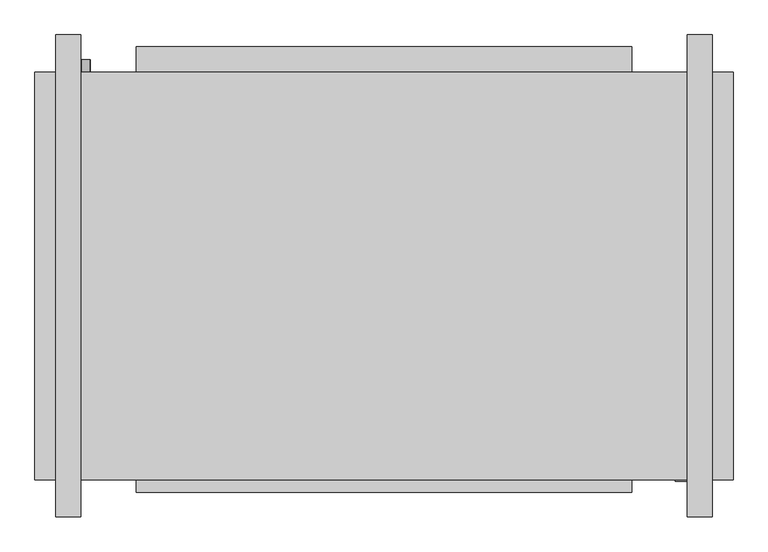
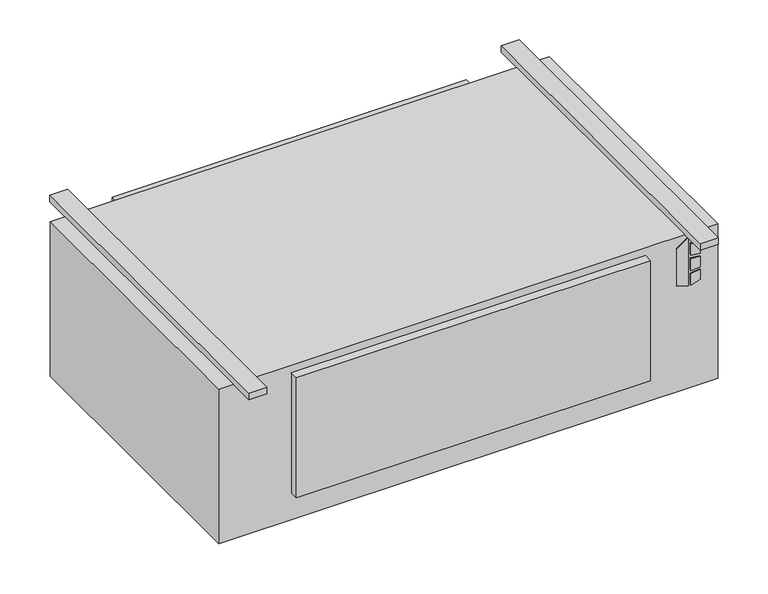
"""IFC4 building model written with IfcOpenShell, lengths in millimetres: proxy geometry, Concealed_High_Capacity_Horizontal_Cabinet_Fan_Coil_Unit_-_HXY_-_IEC_-_4-Pipe_LH_2022 : Size 16 - 277v/60Hz/1Ph - 6/2 Coil."""

from ifc_helpers import new_model, si_unit, point, frame, frame_2d, origin, origin_with_axes, place, context, project, spatial, polyline, circle_curve, trimmed, segment, composite_curve, outline, extrude, source, transform, mapped, element, save


def mechanical_equipment_70990f69(model_context):
    return source(origin(), model_context, "Body", "SweptSolid", [
        extrude(outline(polyline([(-142.4519297, 735.0868862), (-152.4, 767.2602728), (-10.2290756, 767.2602728), (-33.2510817, 735.0868862), (-142.4519297, 735.0868862)])), frame((0.0, -649.2875, 0.0), z_axis=(0.0, 1.0, 0.0), x_axis=(0.0, 0.0, 1.0)), (0.0, 0.0, 1.0), 3.175),
        extrude(outline(polyline([(-63.4526443, 774.0186058), (-66.6550368, 800.1), (-37.4261958, 800.1), (-29.3617807, 774.0186058), (-63.4526443, 774.0186058)])), frame((0.0, -649.2875, 0.0), z_axis=(0.0, 1.0, 0.0), x_axis=(0.0, 0.0, 1.0)), (0.0, 0.0, 1.0), 3.175),
        extrude(outline(polyline([(-115.3161712, 800.1), (-118.9816721, 774.0186058), (-152.4, 774.0186058), (-143.7657628, 800.1), (-115.3161712, 800.1)])), frame((0.0, -649.2875, 0.0), z_axis=(0.0, 1.0, 0.0), x_axis=(0.0, 0.0, 1.0)), (0.0, 0.0, 1.0), 3.175),
        extrude(outline(polyline([(-76.0010097, 800.1), (-73.7191834, 774.0186058), (-109.6567319, 774.0186058), (-106.9154669, 800.1), (-76.0010097, 800.1)])), frame((0.0, -649.2875, 0.0), z_axis=(0.0, 1.0, 0.0), x_axis=(0.0, 0.0, 1.0)), (0.0, 0.0, 1.0), 3.175),
        extrude(outline(composite_curve([segment(trimmed(circle_curve(frame_2d((-406.4, -444.5)), 9.525), [point((-406.4, -454.025))], [point((-406.4, -434.975))], False, "CARTESIAN"), True, "CONTINUOUS"), segment(trimmed(circle_curve(frame_2d((-406.4, -444.5)), 9.525), [point((-406.4, -434.975))], [point((-406.4, -454.025))], False, "CARTESIAN"), True, "CONTINUOUS")], self_intersect=False)), frame((0.0, 169.8625, 0.0), z_axis=(0.0, 1.0, 0.0), x_axis=(0.0, 0.0, 1.0)), (0.0, 0.0, 1.0), 25.4),
        extrude(outline(composite_curve([segment(trimmed(circle_curve(frame_2d((-330.2, -444.5)), 7.9375), [point((-330.2, -452.4375))], [point((-330.2, -436.5625))], False, "CARTESIAN"), True, "CONTINUOUS"), segment(trimmed(circle_curve(frame_2d((-330.2, -444.5)), 7.9375), [point((-330.2, -436.5625))], [point((-330.2, -452.4375))], False, "CARTESIAN"), True, "CONTINUOUS")], self_intersect=False)), frame((0.0, 169.8625, 0.0), z_axis=(0.0, 1.0, 0.0), x_axis=(0.0, 0.0, 1.0)), (0.0, 0.0, 1.0), 25.4),
        extrude(outline(composite_curve([segment(trimmed(circle_curve(frame_2d((-254.0, -444.5)), 7.9375), [point((-254.0, -452.4375))], [point((-254.0, -436.5625))], False, "CARTESIAN"), True, "CONTINUOUS"), segment(trimmed(circle_curve(frame_2d((-254.0, -444.5)), 7.9375), [point((-254.0, -436.5625))], [point((-254.0, -452.4375))], False, "CARTESIAN"), True, "CONTINUOUS")], self_intersect=False)), frame((0.0, 169.8625, 0.0), z_axis=(0.0, 1.0, 0.0), x_axis=(0.0, 0.0, 1.0)), (0.0, 0.0, 1.0), 25.4),
        extrude(outline(composite_curve([segment(trimmed(circle_curve(frame_2d((-177.8, -444.5)), 7.9375), [point((-177.8, -452.4375))], [point((-177.8, -436.5625))], False, "CARTESIAN"), True, "CONTINUOUS"), segment(trimmed(circle_curve(frame_2d((-177.8, -444.5)), 7.9375), [point((-177.8, -436.5625))], [point((-177.8, -452.4375))], False, "CARTESIAN"), True, "CONTINUOUS")], self_intersect=False)), frame((0.0, 169.8625, 0.0), z_axis=(0.0, 1.0, 0.0), x_axis=(0.0, 0.0, 1.0)), (0.0, 0.0, 1.0), 25.4),
        extrude(outline(composite_curve([segment(trimmed(circle_curve(frame_2d((-101.6, -444.5)), 7.9375), [point((-101.6, -452.4375))], [point((-101.6, -436.5625))], False, "CARTESIAN"), True, "CONTINUOUS"), segment(trimmed(circle_curve(frame_2d((-101.6, -444.5)), 7.9375), [point((-101.6, -436.5625))], [point((-101.6, -452.4375))], False, "CARTESIAN"), True, "CONTINUOUS")], self_intersect=False)), frame((0.0, 169.8625, 0.0), z_axis=(0.0, 1.0, 0.0), x_axis=(0.0, 0.0, 1.0)), (0.0, 0.0, 1.0), 25.4),
        extrude(outline(polyline([(850.9, 169.8625), (850.9, -646.1125), (-546.1, -646.1125), (-546.1, 169.8625), (850.9, 169.8625)])), frame((0.0, 0.0, -457.2), z_axis=(0.0, 0.0, 1.0), x_axis=(1.0, 0.0, 0.0)), (0.0, 0.0, 1.0), 457.2),
        extrude(outline(polyline([(-342.9, 220.6625), (647.7, 220.6625), (647.7, 169.8625), (-342.9, 169.8625), (-342.9, 220.6625)])), frame((0.0, 0.0, -377.825), z_axis=(0.0, 0.0, 1.0), x_axis=(1.0, 0.0, 0.0)), (0.0, 0.0, 1.0), 349.25),
        extrude(outline(polyline([(-454.025, 244.475), (-454.025, -720.725), (-504.825, -720.725), (-504.825, 244.475), (-454.025, 244.475)])), origin_with_axes(), (0.0, 0.0, 1.0), 19.05),
        extrude(outline(polyline([(809.625, 244.475), (809.625, -720.725), (758.825, -720.725), (758.825, 244.475), (809.625, 244.475)])), origin_with_axes(), (0.0, 0.0, 1.0), 19.05),
        extrude(outline(polyline([(647.7, -671.5125), (-342.9, -671.5125), (-342.9, -646.1125), (647.7, -646.1125), (647.7, -671.5125)])), frame((0.0, 0.0, -377.825), z_axis=(0.0, 0.0, 1.0), x_axis=(1.0, 0.0, 0.0)), (0.0, 0.0, 1.0), 355.6),
    ])


if __name__ == "__main__":
    model = new_model("IFC4")
    model_context = context("Model", 3, world=origin())
    ifc_project = project(units=[si_unit("LENGTHUNIT", "METRE", prefix="MILLI")], contexts=[model_context])
    site = spatial("IfcSite", under=ifc_project)
    building = spatial("IfcBuilding", under=site)
    placement = place(None, origin())
    mechanical_equipment_shape = mechanical_equipment_70990f69(model_context)
    element("IfcBuildingElementProxy", 1, Name="Concealed_High_Capacity_Horizontal_Cabinet_Fan_Coil_Unit_-_HXY_-_IEC_-_4-Pipe_LH_2022 : Size 16 - 277v/60Hz/1Ph - 6/2 Coil", ObjectType="Concealed_High_Capacity_Horizontal_Cabinet_Fan_Coil_Unit_-_HXY_-_IEC_-_4-Pipe_LH_2022 : Size 16 - 277v/60Hz/1Ph - 6/2 Coil", at=placement, inside=building, context=model_context, shape_type="MappedRepresentation", body=[
        mapped(mechanical_equipment_shape, transform((0.0, 0.0, 0.0), x_axis=(1.0, 0.0, 0.0), y_axis=(0.0, 1.0, 0.0), z_axis=(0.0, 0.0, 1.0))),
    ])
    save(model, "model.ifc")
